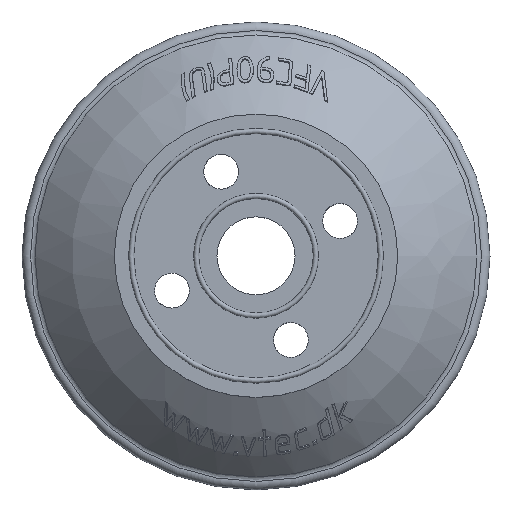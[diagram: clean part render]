
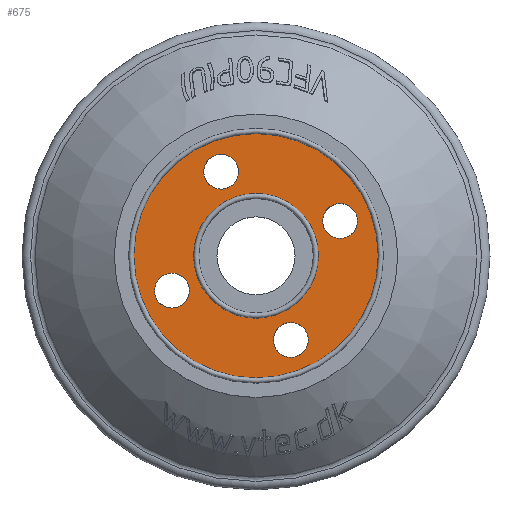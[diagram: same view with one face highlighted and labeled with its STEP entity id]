
A CAD part, top view. The second image highlights one B-rep face of the part: STEP entity #675.
In plain terms, the highlighted planar face has unit normal (0, 0, 1).
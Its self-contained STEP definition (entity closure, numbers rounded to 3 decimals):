
#675 = ADVANCED_FACE( '', ( #1520, #1521, #1522, #1523, #1524, #1525 ), #1526, .T. );
#1520 = FACE_OUTER_BOUND( '', #4877, .T. );
#1521 = FACE_BOUND( '', #4878, .T. );
#1522 = FACE_BOUND( '', #4879, .T. );
#1523 = FACE_BOUND( '', #4880, .T. );
#1524 = FACE_BOUND( '', #4881, .T. );
#1525 = FACE_BOUND( '', #4882, .T. );
#1526 = PLANE( '', #4883 );
#4877 = EDGE_LOOP( '', ( #10532 ) );
#4878 = EDGE_LOOP( '', ( #10533 ) );
#4879 = EDGE_LOOP( '', ( #10534 ) );
#4880 = EDGE_LOOP( '', ( #10535 ) );
#4881 = EDGE_LOOP( '', ( #10536 ) );
#4882 = EDGE_LOOP( '', ( #10537 ) );
#4883 = AXIS2_PLACEMENT_3D( '', #10538, #10539, #10540 );
#10532 = ORIENTED_EDGE( '', *, *, #12340, .T. );
#10533 = ORIENTED_EDGE( '', *, *, #12050, .F. );
#10534 = ORIENTED_EDGE( '', *, *, #12183, .F. );
#10535 = ORIENTED_EDGE( '', *, *, #11664, .F. );
#10536 = ORIENTED_EDGE( '', *, *, #12011, .F. );
#10537 = ORIENTED_EDGE( '', *, *, #12341, .F. );
#10538 = CARTESIAN_POINT( '', ( 23.5, 0., 10.75 ) );
#10539 = DIRECTION( '', ( 0., 0., 1. ) );
#10540 = DIRECTION( '', ( 1., 0., 0. ) );
#11664 = EDGE_CURVE( '', #12727, #12727, #12728, .T. );
#12011 = EDGE_CURVE( '', #13312, #13312, #13313, .T. );
#12050 = EDGE_CURVE( '', #13372, #13372, #13373, .T. );
#12183 = EDGE_CURVE( '', #13556, #13556, #13557, .T. );
#12340 = EDGE_CURVE( '', #13768, #13768, #13769, .F. );
#12341 = EDGE_CURVE( '', #13770, #13770, #13771, .T. );
#12727 = VERTEX_POINT( '', #14783 );
#12728 = CIRCLE( '', #14784, 3.35 );
#13312 = VERTEX_POINT( '', #17185 );
#13313 = CIRCLE( '', #17186, 3.35 );
#13372 = VERTEX_POINT( '', #17430 );
#13373 = CIRCLE( '', #17431, 3.35 );
#13556 = VERTEX_POINT( '', #17950 );
#13557 = CIRCLE( '', #17951, 3.35 );
#13768 = VERTEX_POINT( '', #18816 );
#13769 = CIRCLE( '', #18817, 23.5 );
#13770 = VERTEX_POINT( '', #18818 );
#13771 = CIRCLE( '', #18819, 12. );
#14783 = CARTESIAN_POINT( '', ( -6.697, 12.818, 10.75 ) );
#14784 = AXIS2_PLACEMENT_3D( '', #19515, #19516, #19517 );
#17185 = CARTESIAN_POINT( '', ( -16.168, -10.047, 10.75 ) );
#17186 = AXIS2_PLACEMENT_3D( '', #19823, #19824, #19825 );
#17430 = CARTESIAN_POINT( '', ( 6.697, -19.518, 10.75 ) );
#17431 = AXIS2_PLACEMENT_3D( '', #19848, #19849, #19850 );
#17950 = CARTESIAN_POINT( '', ( 16.168, 3.347, 10.75 ) );
#17951 = AXIS2_PLACEMENT_3D( '', #19966, #19967, #19968 );
#18816 = CARTESIAN_POINT( '', ( 0., 23.5, 10.75 ) );
#18817 = AXIS2_PLACEMENT_3D( '', #20155, #20156, #20157 );
#18818 = CARTESIAN_POINT( '', ( 0., -12., 10.75 ) );
#18819 = AXIS2_PLACEMENT_3D( '', #20158, #20159, #20160 );
#19515 = CARTESIAN_POINT( '', ( -6.697, 16.168, 10.75 ) );
#19516 = DIRECTION( '', ( 0., 0., 1. ) );
#19517 = DIRECTION( '', ( 0., -1., 0. ) );
#19823 = CARTESIAN_POINT( '', ( -16.168, -6.697, 10.75 ) );
#19824 = DIRECTION( '', ( 0., 0., 1. ) );
#19825 = DIRECTION( '', ( 0., -1., 0. ) );
#19848 = CARTESIAN_POINT( '', ( 6.697, -16.168, 10.75 ) );
#19849 = DIRECTION( '', ( 0., 0., 1. ) );
#19850 = DIRECTION( '', ( 0., -1., 0. ) );
#19966 = CARTESIAN_POINT( '', ( 16.168, 6.697, 10.75 ) );
#19967 = DIRECTION( '', ( 0., 0., 1. ) );
#19968 = DIRECTION( '', ( 0., -1., 0. ) );
#20155 = CARTESIAN_POINT( '', ( 0., 0., 10.75 ) );
#20156 = DIRECTION( '', ( 0., 0., -1. ) );
#20157 = DIRECTION( '', ( 0., 1., 0. ) );
#20158 = CARTESIAN_POINT( '', ( 0., 0., 10.75 ) );
#20159 = DIRECTION( '', ( 0., 0., 1. ) );
#20160 = DIRECTION( '', ( 0., -1., 0. ) );
